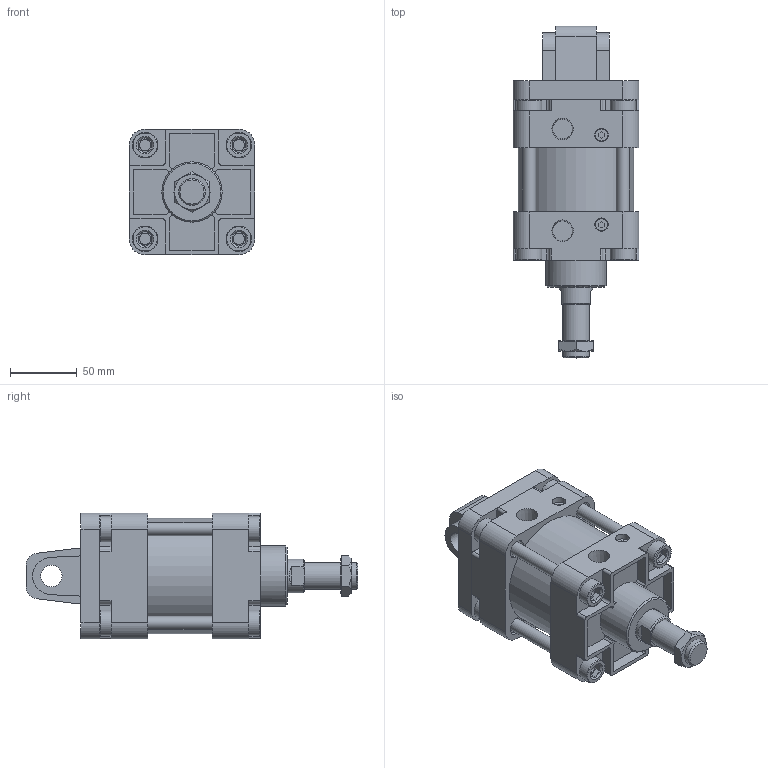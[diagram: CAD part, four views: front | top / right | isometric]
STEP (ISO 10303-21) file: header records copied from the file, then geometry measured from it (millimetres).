
FILE_DESCRIPTION(/* description */ ('Unknown'),/* implementation_level */ '2;1');
FILE_NAME(/* name */ 'WA80-0-CA',/* time_stamp */ '2026-07-17T16:55:26+08:00',/* author */ ('Unknown'),/* organization */ ('Unknown'),/* preprocessor_version */ 'ST-DEVELOPER v16.7',/* originating_system */ 'DEX',/* authorisation */ $);
FILE_SCHEMA (('CONFIG_CONTROL_DESIGN'));
Length unit declared in the file: millimetre
Products named in the file (8): WA80-0-CA; WA80_前; WA80_後; WA80_心軸活; M20-1.5P-8_螺; WA80_TｴU､恝 ; WA80_CA
Assembly tree (10 placements, depth 2):
  WA80-0-CA
    WA80_前
    WA80_後
    (unnamed)
    WA80_心軸活
    M20-1.5P-8_螺
    WA80_TｴU､恝   x4
    WA80_CA
Bounding box: 94 x 248 x 94 mm (x, y, z)
Volume: 1037595.5 mm3; surface area: 203446.1 mm2
Topology: 10 solids, 10 shells, 407 faces, 991 edges, 658 vertices
Faces by surface type: plane 240, cylinder 136, cone 23, torus 8
Full cylindrical faces by diameter (mm): 8.5 x8, 9 x2, 10 x6, 11 x4, 14 x12, 14.2 x4, 16 x1, 17 x4, 18.376 x1, 19 x8, 20 x1, 25 x2, 26 x1, 45 x1, 79.5 x1, 80 x3, 86 x1
Entity records: 11050 total; most frequent: CARTESIAN_POINT 1661, DIRECTION 1594, ORIENTED_EDGE 1436, EDGE_CURVE 718, AXIS2_PLACEMENT_3D 585, VERTEX_POINT 504, LINE 424, VECTOR 424
